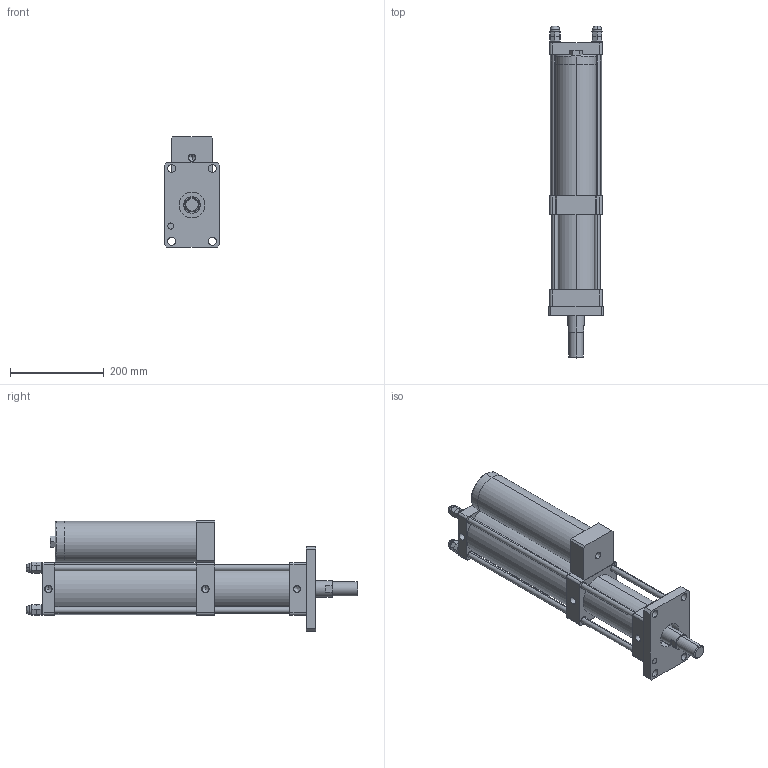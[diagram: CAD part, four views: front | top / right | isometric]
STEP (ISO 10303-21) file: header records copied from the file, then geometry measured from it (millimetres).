
FILE_DESCRIPTION (( 'STEP AP203' ), '1' );
FILE_NAME ('CPT-80-100-15-8T.STEP', '2016-03-11T03:09:48', ( 'WIN' ), ( '' ), 'SwSTEP 2.0', 'SolidWorks 2014', '' );
FILE_SCHEMA (( 'CONFIG_CONTROL_DESIGN' ));
Length unit declared in the file: millimetre
Products named in the file (1): CPT-80-100-15-8T
Bounding box: 118 x 707.07 x 235 mm (x, y, z)
Volume: 6458556.6 mm3; surface area: 674176.7 mm2
Topology: 17 solids, 17 shells, 389 faces, 959 edges, 560 vertices
Faces by surface type: plane 181, cylinder 90, bspline 48, torus 46, cone 24
Entity records: 12577 total; most frequent: CARTESIAN_POINT 3667, DIRECTION 1874, ORIENTED_EDGE 1786, EDGE_CURVE 893, AXIS2_PLACEMENT_3D 687, VERTEX_POINT 560, VECTOR 500, LINE 500
